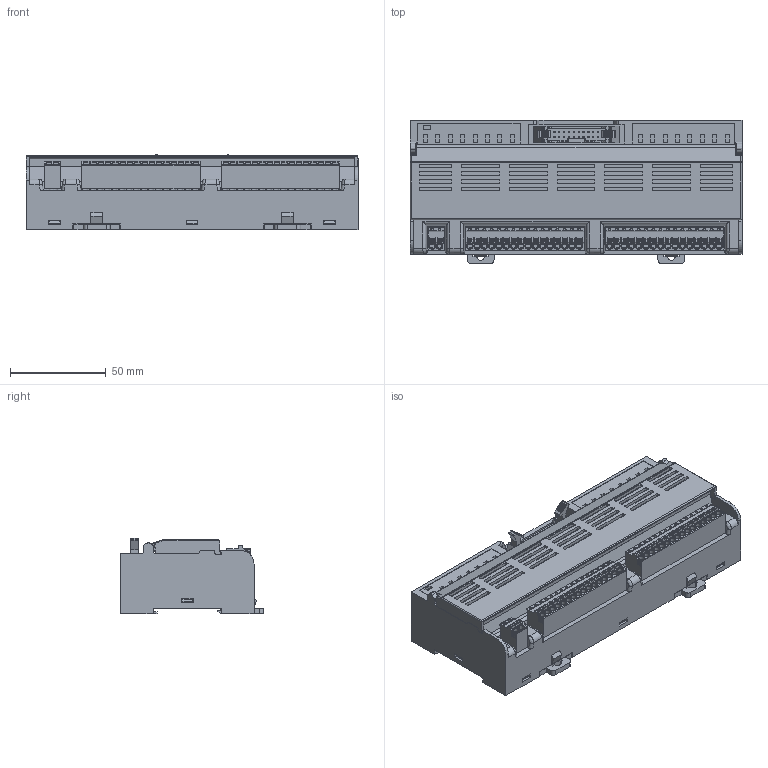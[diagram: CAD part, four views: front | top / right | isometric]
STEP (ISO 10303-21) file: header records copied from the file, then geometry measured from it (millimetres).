
FILE_DESCRIPTION(/* description */ (''),/* implementation_level */ '2;1');
FILE_NAME(/* name */ 'R16G-EF.stp',/* time_stamp */ '2022-01-06T15:18:27+09:00',/* author */ (''),/* organization */ (''),/* preprocessor_version */ 'ST-DEVELOPER v16.7',/* originating_system */ 'SIEMENS PLM Software NX 12.0',/* authorisation */ '');
FILE_SCHEMA (('AUTOMOTIVE_DESIGN { 1 0 10303 214 3 1 1 1 }'));
Products named in the file (1): BWJE64D4E2239jxi
Bounding box: 173.5 x 74.9 x 39.51 mm (x, y, z)
Volume: 341576.5 mm3; surface area: 93817.8 mm2
Topology: 1 solids, 2 shells, 3961 faces, 10854 edges, 6830 vertices
Faces by surface type: plane 2621, cylinder 1013, cone 170, sphere 138, bspline 8, torus 6, extrusion 5
Full cylindrical faces by diameter (mm): 2 x2
Entity records: 156553 total; most frequent: CARTESIAN_POINT 29917, ORIENTED_EDGE 21430, DIRECTION 21001, EDGE_CURVE 10715, VECTOR 8049, LINE 8044, VERTEX_POINT 6829, AXIS2_PLACEMENT_3D 6476
